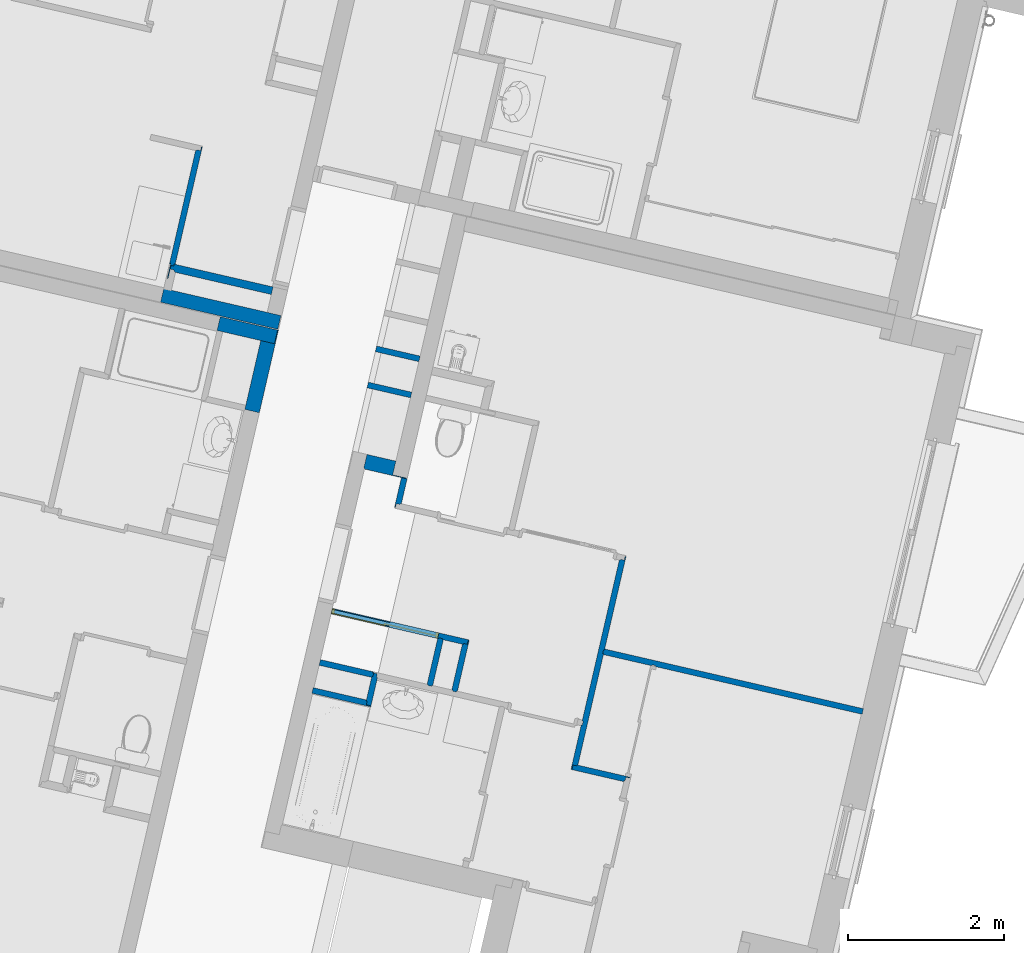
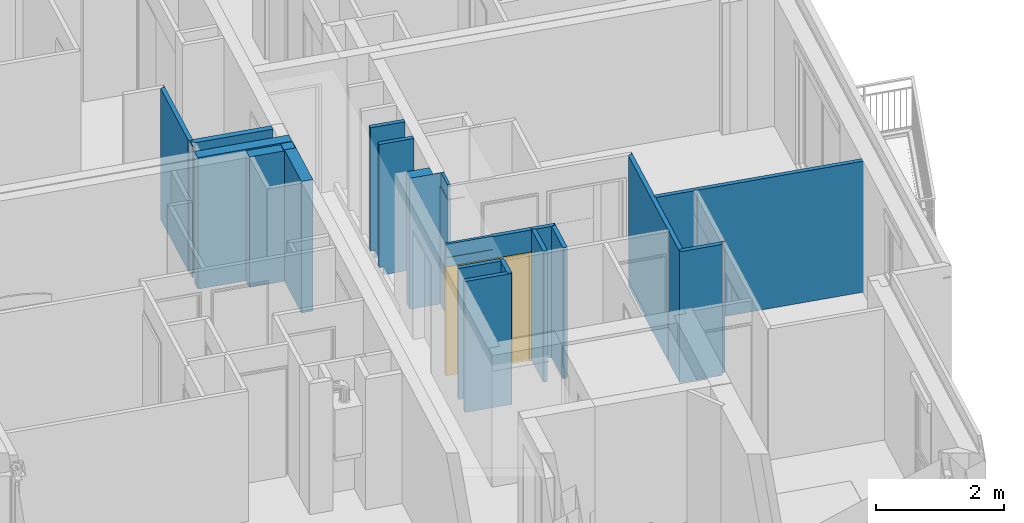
# One storey, part 28 of 62: 19 walls, 1 door, 1 opening.
"""IFC2X3 building model written with IfcOpenShell, lengths in metres."""

from ifc_helpers import new_model, entity, si_unit, converted_unit, derived_unit, money_unit, direction, frame, origin_with_axes, place, context, subcontext, project, spatial, faceted_brep, material, material_list, type_object, element, fill, save


model = new_model("IFC2X3")

# Units and contexts
model_context = context("Model", 3, precision=1e-05, world=origin_with_axes(), true_north=direction((0.0, 1.0)))
body_context = subcontext(model_context, "Body", "Model", "MODEL_VIEW")
ifc_project = project(units=[si_unit("LENGTHUNIT", "METRE"), si_unit("AREAUNIT", "SQUARE_METRE"), si_unit("VOLUMEUNIT", "CUBIC_METRE"), converted_unit("PLANEANGLEUNIT", "DEGREE", entity("IfcPlaneAngleMeasure", 0.0174532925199), si_unit("PLANEANGLEUNIT", "RADIAN"), dimensions=[0, 0, 0, 0, 0, 0, 0]), si_unit("SOLIDANGLEUNIT", "STERADIAN"), money_unit("EUR"), converted_unit("TIMEUNIT", "Year", entity("IfcTimeMeasure", 31556926.0), si_unit("TIMEUNIT", "SECOND"), dimensions=[0, 0, 1, 0, 0, 0, 0]), si_unit("MASSUNIT", "GRAM", prefix="KILO"), si_unit("THERMODYNAMICTEMPERATUREUNIT", "DEGREE_CELSIUS"), si_unit("LUMINOUSINTENSITYUNIT", "LUMEN"), si_unit("ENERGYUNIT", "JOULE", prefix="MEGA"), derived_unit("THERMALCONDUCTANCEUNIT", [(si_unit("POWERUNIT", "WATT"), 1), (si_unit("LENGTHUNIT", "METRE"), -1), (si_unit("THERMODYNAMICTEMPERATUREUNIT", "KELVIN"), -1)]), derived_unit("SPECIFICHEATCAPACITYUNIT", [(si_unit("ENERGYUNIT", "JOULE"), 1), (si_unit("MASSUNIT", "GRAM", prefix="KILO"), -1), (si_unit("THERMODYNAMICTEMPERATUREUNIT", "KELVIN"), -1)]), derived_unit("MASSDENSITYUNIT", [(si_unit("MASSUNIT", "GRAM", prefix="KILO"), 1), (si_unit("VOLUMEUNIT", "CUBIC_METRE"), -1)])], contexts=[model_context])

# Site, building, storey
site_placement = place(None, origin_with_axes())
site = spatial("IfcSite", under=ifc_project, at=site_placement, Name="Site", CompositionType="ELEMENT")
building_placement = place(site_placement, origin_with_axes())
building = spatial("IfcBuilding", under=site, at=building_placement, Name="Bâtiment", CompositionType="ELEMENT")
storey_placement = place(building_placement, frame((0.0, 0.0, 8.16), z_axis=(0.0, 0.0, 1.0), x_axis=(1.0, 0.0, 0.0)))
storey = spatial("IfcBuildingStorey", under=building, at=storey_placement, Name="R+3", CompositionType="ELEMENT", Elevation=8.16)

# Walls
ifc_material_1 = material(Name="Cloison - Carreaux de plâtre")
wall_type_1 = type_object("IfcWallType", Name="Cloison - Carreaux de plâtre 74", PredefinedType="USERDEFINED")
wall_1_placement = place(storey_placement, frame((-8.89404805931, 2.22587823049, 0.0), z_axis=(0.0, 0.0, 1.0), x_axis=(0.974387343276, -0.224876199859, 0.0)))
element("IfcWall", 1, at=wall_1_placement, inside=storey, type_object=wall_type_1, material=ifc_material_1, Name="Carreaux de plâtre 8cm", ObjectType="PARTITIONING", context=body_context, shape_type="Brep", body=[
    faceted_brep([(0.570000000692, 0.0, 0.0), (0.0739999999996, 0.0, 0.0), (0.0739999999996, 0.0, 0.15), (0.0, 0.0, 0.15), (0.0, 0.0, 2.5), (0.570000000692, 0.0, 2.5), (0.570000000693, -0.074, 0.0), (0.0739999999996, -0.074, 0.0), (0.0739999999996, -0.074, 0.15), (0.0, -0.074, 0.15), (0.0, -0.074, 2.5), (0.570000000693, -0.074, 2.5)], [[[0, 1, 2, 3, 4, 5]], [[0, 6, 7, 1]], [[7, 8, 2, 1]], [[8, 9, 3, 2]], [[10, 4, 3, 9]], [[10, 11, 5, 4]], [[11, 6, 0, 5]], [[10, 9, 8, 7, 6, 11]]]),
])
wall_2_placement = place(storey_placement, frame((-9.00063937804, 1.76401862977, 0.0), z_axis=(0.0, 0.0, 1.0), x_axis=(0.974387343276, -0.224876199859, 0.0)))
element("IfcWall", 2, at=wall_2_placement, inside=storey, type_object=wall_type_1, material=ifc_material_1, Name="Carreaux de plâtre 8cm", ObjectType="PARTITIONING", context=body_context, shape_type="Brep", body=[
    faceted_brep([(0.570000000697, 0.0, 0.0), (0.0740000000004, 0.0, 0.0), (0.0740000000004, 0.0, 0.15), (0.0, 0.0, 0.15), (0.0, 0.0, 2.5), (0.570000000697, 0.0, 2.5), (0.570000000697, -0.074, 0.0), (0.0740000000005, -0.074, 0.0), (0.0740000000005, -0.074, 0.15), (0.0, -0.074, 0.15), (0.0, -0.074, 2.5), (0.570000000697, -0.074, 2.5)], [[[0, 1, 2, 3, 4, 5]], [[0, 6, 7, 1]], [[7, 8, 2, 1]], [[8, 9, 3, 2]], [[10, 4, 3, 9]], [[10, 11, 5, 4]], [[11, 6, 0, 5]], [[10, 9, 8, 7, 6, 11]]]),
])
ifc_material_2 = material(Name="Finition int - Plaque de plâtre")
ifc_material_3 = material(Name="Isolation - Laine de roche")
ifc_material_list_1 = material_list([ifc_material_2, ifc_material_3, ifc_material_2])
wall_type_2 = type_object("IfcWallType", Name="3 - Cloison 72mm Placostil 74", PredefinedType="USERDEFINED")
wall_3_placement = place(storey_placement, frame((-6.39424177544, -3.11506443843, 0.0), z_axis=(0.0, 0.0, 1.0), x_axis=(0.224876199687, 0.974387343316, 0.0)))
element("IfcWall", 3, at=wall_3_placement, inside=storey, type_object=wall_type_2, material=ifc_material_list_1, Name="Cloison Placostil 72/48", ObjectType="PARTITIONING", context=body_context, shape_type="Brep", body=[
    faceted_brep([(0.51300000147, -0.013, 2.5), (0.513000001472, 0.0, 2.5), (-0.061, 0.0, 2.5), (-0.0609999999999, -0.013, 2.5), (0.51300000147, -0.013, 0.0), (0.513000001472, 0.0, 0.0), (-0.061, 0.0, 0.0), (-0.0609999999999, -0.013, 0.0)], [[[0, 1, 2, 3]], [[1, 0, 4, 5]], [[1, 5, 6, 2]], [[7, 3, 2, 6]], [[4, 0, 3, 7]], [[5, 4, 7, 6]]]),
    faceted_brep([(2.6740000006, -0.013, 2.5), (2.6740000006, 0.0, 2.5), (0.561000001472, 0.0, 2.5), (0.56100000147, -0.013, 2.5), (2.6740000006, -0.013, 0.0), (2.6740000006, 0.0, 0.0), (0.561000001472, 0.0, 0.0), (0.56100000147, -0.013, 0.0)], [[[0, 1, 2, 3]], [[1, 0, 4, 5]], [[1, 5, 6, 2]], [[7, 3, 2, 6]], [[4, 0, 3, 7]], [[5, 4, 7, 6]]]),
    faceted_brep([(2.68700000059, -0.061, 2.5), (2.6870000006, -0.013, 2.5), (-0.0129999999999, -0.013, 2.5), (-0.0129999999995, -0.061, 2.5), (2.68700000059, -0.061, 0.0), (2.6870000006, -0.013, 0.0), (-0.0129999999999, -0.013, 0.0), (-0.0129999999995, -0.061, 0.0)], [[[0, 1, 2, 3]], [[1, 0, 4, 5]], [[1, 5, 6, 2]], [[7, 3, 2, 6]], [[4, 0, 3, 7]], [[5, 4, 7, 6]]]),
    faceted_brep([(2.73500000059, -0.074, 2.5), (2.73500000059, -0.061, 2.5), (1.51100000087, -0.061, 2.5), (1.51100000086, -0.074, 2.5), (2.73500000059, -0.074, 0.0), (2.73500000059, -0.061, 0.0), (1.51100000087, -0.061, 0.0), (1.51100000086, -0.074, 0.0)], [[[0, 1, 2, 3]], [[1, 0, 4, 5]], [[1, 5, 6, 2]], [[7, 3, 2, 6]], [[4, 0, 3, 7]], [[5, 4, 7, 6]]]),
    faceted_brep([(1.46300000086, -0.074, 2.5), (1.46300000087, -0.061, 2.5), (0.0, -0.061, 2.5), (0.0, -0.074, 2.5), (1.46300000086, -0.074, 0.0), (1.46300000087, -0.061, 0.0), (0.0, -0.061, 0.0), (0.0, -0.074, 0.0)], [[[0, 1, 2, 3]], [[1, 0, 4, 5]], [[1, 5, 6, 2]], [[7, 3, 2, 6]], [[4, 0, 3, 7]], [[5, 4, 7, 6]]]),
])
wall_4_placement = place(storey_placement, frame((-7.71045196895, -1.53049506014, 0.0), z_axis=(0.0, 0.0, 1.0), x_axis=(-0.974387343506, 0.224876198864, 0.0)))
element("IfcWall", 4, at=wall_4_placement, inside=storey, type_object=wall_type_2, material=ifc_material_list_1, Name="Cloison Placostil 72/48", ObjectType="PARTITIONING", context=body_context, shape_type="Brep", body=[
    faceted_brep([(0.385000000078, 0.074, 0.0), (0.397999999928, 0.074, 0.0), (0.397999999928, 0.061, 0.0), (0.385000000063, 0.061, 0.0), (0.385000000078, 0.074, 2.5), (0.397999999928, 0.074, 2.5), (0.397999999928, 0.061, 2.5), (0.385000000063, 0.061, 2.5)], [[[0, 1, 2, 3]], [[4, 5, 1, 0]], [[2, 1, 5, 6]], [[3, 2, 6, 7]], [[4, 0, 3, 7]], [[7, 6, 5, 4]]]),
    faceted_brep([(0.337000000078, 0.074, 0.0), (0.337000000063, 0.061, 0.0), (0.061000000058, 0.061, 0.0), (0.0610000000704, 0.074, 0.0), (0.337000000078, 0.074, 2.5), (0.337000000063, 0.061, 2.5), (0.061000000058, 0.061, 2.5), (0.0610000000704, 0.074, 2.5)], [[[0, 1, 2, 3]], [[1, 0, 4, 5]], [[1, 5, 6, 2]], [[7, 3, 2, 6]], [[4, 0, 3, 7]], [[5, 4, 7, 6]]]),
    faceted_brep([(0.013000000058, 0.061, 0.0), (0.397999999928, 0.061, 0.0), (0.397999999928, 0.013, 0.0), (0.0130000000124, 0.013, 0.0), (0.013000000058, 0.061, 2.5), (0.397999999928, 0.061, 2.5), (0.397999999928, 0.013, 2.5), (0.0130000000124, 0.013, 2.5)], [[[0, 1, 2, 3]], [[4, 5, 1, 0]], [[2, 1, 5, 6]], [[3, 2, 6, 7]], [[4, 0, 3, 7]], [[7, 6, 5, 4]]]),
    faceted_brep([(0.0, 0.013, 0.0), (0.397999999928, 0.013, 0.0), (0.397999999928, 0.0, 0.0), (0.0, 0.0, 0.0), (0.0, 0.013, 2.5), (0.397999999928, 0.013, 2.5), (0.397999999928, 0.0, 2.5), (0.0, 0.0, 2.5)], [[[0, 1, 2, 3]], [[4, 5, 1, 0]], [[2, 1, 5, 6]], [[3, 2, 6, 7]], [[4, 0, 3, 7]], [[7, 6, 5, 4]]]),
])
wall_5_placement = place(storey_placement, frame((-8.97025376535, -2.38667692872, 0.0), z_axis=(0.0, 0.0, 1.0), x_axis=(0.224876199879, 0.974387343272, 0.0)))
element("IfcWall", 5, at=wall_5_placement, inside=storey, type_object=wall_type_2, material=ifc_material_list_1, Name="Cloison Placostil 72/48", ObjectType="PARTITIONING", context=body_context, shape_type="Brep", body=[
    faceted_brep([(0.0610000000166, 0.061, 0.0), (0.38255221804, 0.061, 0.0), (0.38255221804, 0.061, 2.5), (0.0610000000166, 0.061, 2.5), (0.0610000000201, 0.074, 0.0), (0.382552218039, 0.074, 0.0), (0.382552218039, 0.074, 2.5), (0.0610000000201, 0.074, 2.5)], [[[0, 1, 2, 3]], [[4, 5, 1, 0]], [[5, 6, 2, 1]], [[3, 2, 6, 7]], [[3, 7, 4, 0]], [[7, 6, 5, 4]]]),
    faceted_brep([(0.443552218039, 0.074, 2.5), (0.430552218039, 0.074, 2.5), (0.43055221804, 0.061, 2.5), (0.44355221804, 0.061, 2.5), (0.443552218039, 0.074, 0.0), (0.430552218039, 0.074, 0.0), (0.43055221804, 0.061, 0.0), (0.44355221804, 0.061, 0.0)], [[[0, 1, 2, 3]], [[4, 5, 1, 0]], [[5, 6, 2, 1]], [[3, 2, 6, 7]], [[3, 7, 4, 0]], [[7, 6, 5, 4]]]),
    faceted_brep([(0.0130000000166, 0.061, 0.0), (0.43055221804, 0.061, 0.0), (0.430552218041, 0.013, 0.0), (0.0130000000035, 0.013, 0.0), (0.0130000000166, 0.061, 2.5), (0.43055221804, 0.061, 2.5), (0.430552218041, 0.013, 2.5), (0.0130000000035, 0.013, 2.5)], [[[0, 1, 2, 3]], [[4, 5, 1, 0]], [[6, 2, 1, 5]], [[3, 2, 6, 7]], [[7, 4, 0, 3]], [[7, 6, 5, 4]]]),
    faceted_brep([(0.382552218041, 0.013, 0.0), (0.382552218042, 0.0, 0.0), (0.0, 0.0, 0.0), (0.0, 0.013, 0.0), (0.382552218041, 0.013, 2.5), (0.382552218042, 0.0, 2.5), (0.0, 0.0, 2.5), (0.0, 0.013, 2.5)], [[[0, 1, 2, 3]], [[1, 0, 4, 5]], [[1, 5, 6, 2]], [[7, 3, 2, 6]], [[4, 0, 3, 7]], [[5, 4, 7, 6]]]),
])
wall_6_placement = place(storey_placement, frame((-11.5416169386, 3.28705279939, 0.0), z_axis=(0.0, 0.0, 1.0), x_axis=(0.224876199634, 0.974387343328, 0.0)))
element("IfcWall", 6, at=wall_6_placement, inside=storey, type_object=wall_type_2, material=ifc_material_list_1, Name="Cloison Placostil 72/48", ObjectType="PARTITIONING", context=body_context, shape_type="Brep", body=[
    faceted_brep([(1.47600000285, 0.0, 2.5), (0.0, 0.0, 2.5), (0.0, -0.013, 2.5), (1.47600000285, -0.013, 2.5), (1.47600000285, 0.0, 0.0), (0.0, 0.0, 0.0), (0.0, -0.013, 0.0), (1.47600000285, -0.013, 0.0)], [[[0, 1, 2, 3]], [[4, 5, 1, 0]], [[5, 6, 2, 1]], [[3, 2, 6, 7]], [[7, 4, 0, 3]], [[7, 6, 5, 4]]]),
    faceted_brep([(-0.2, -0.013, 2.5), (-0.2, -0.026, 2.5), (-0.0259999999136, -0.026, 2.5), (-0.0259999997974, -0.061, 2.5), (1.48900000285, -0.061, 2.5), (1.48900000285, -0.013, 2.5), (-0.2, -0.013, 0.0), (-0.2, -0.026, 0.0), (-0.0259999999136, -0.026, 0.0), (-0.0259999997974, -0.061, 0.0), (1.48900000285, -0.061, 0.0), (1.48900000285, -0.013, 0.0)], [[[0, 1, 2, 3, 4, 5]], [[6, 7, 1, 0]], [[8, 2, 1, 7]], [[8, 9, 3, 2]], [[4, 3, 9, 10]], [[10, 11, 5, 4]], [[11, 6, 0, 5]], [[9, 8, 7, 6, 11, 10]]]),
    faceted_brep([(1.53700000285, -0.061, 2.5), (2.02598826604e-10, -0.061, 2.5), (2.45775844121e-10, -0.074, 2.5), (1.53700000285, -0.074, 2.5), (1.53700000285, -0.061, 0.0), (2.02598826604e-10, -0.061, 0.0), (2.45775844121e-10, -0.074, 0.0), (1.53700000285, -0.074, 0.0)], [[[0, 1, 2, 3]], [[4, 5, 1, 0]], [[5, 6, 2, 1]], [[3, 2, 6, 7]], [[7, 4, 0, 3]], [[7, 6, 5, 4]]]),
])
wall_7_placement = place(storey_placement, frame((-9.90858877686, -2.17012114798, 0.0), z_axis=(0.0, 0.0, 1.0), x_axis=(0.974387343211, -0.224876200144, 0.0)))
element("IfcWall", 7, at=wall_7_placement, inside=storey, type_object=wall_type_2, material=ifc_material_list_1, Name="Cloison Placostil 72/48", ObjectType="PARTITIONING", context=body_context, shape_type="Brep", body=[
    faceted_brep([(0.88899999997, 0.074, 0.0), (0.888999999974, 0.061, 0.0), (0.190000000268, 0.061, 0.0), (0.190000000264, 0.074, 0.0), (0.88899999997, 0.074, 2.5), (0.888999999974, 0.061, 2.5), (0.190000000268, 0.061, 2.5), (0.190000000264, 0.074, 2.5)], [[[0, 1, 2, 3]], [[1, 0, 4, 5]], [[1, 5, 6, 2]], [[7, 3, 2, 6]], [[4, 0, 3, 7]], [[5, 4, 7, 6]]]),
    faceted_brep([(0.901999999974, 0.061, 0.0), (0.901999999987, 0.013, 0.0), (0.190000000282, 0.013, 0.0), (0.190000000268, 0.061, 0.0), (0.901999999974, 0.061, 2.5), (0.901999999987, 0.013, 2.5), (0.190000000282, 0.013, 2.5), (0.190000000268, 0.061, 2.5)], [[[0, 1, 2, 3]], [[1, 0, 4, 5]], [[1, 5, 6, 2]], [[7, 3, 2, 6]], [[4, 0, 3, 7]], [[5, 4, 7, 6]]]),
    faceted_brep([(0.949999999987, 0.013, 0.0), (0.94999999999, 0.0, 0.0), (0.190000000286, 0.0, 0.0), (0.190000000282, 0.013, 0.0), (0.949999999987, 0.013, 2.5), (0.94999999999, 0.0, 2.5), (0.190000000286, 0.0, 2.5), (0.190000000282, 0.013, 2.5)], [[[0, 1, 2, 3]], [[1, 0, 4, 5]], [[1, 5, 6, 2]], [[7, 3, 2, 6]], [[4, 0, 3, 7]], [[5, 4, 7, 6]]]),
])
wall_8_placement = place(storey_placement, frame((-6.0515304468, -1.63009812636, 0.0), z_axis=(0.0, 0.0, 1.0), x_axis=(0.974387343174, -0.224876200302, 0.0)))
element("IfcWall", 8, at=wall_8_placement, inside=storey, type_object=wall_type_2, material=ifc_material_list_1, Name="Cloison Placostil 72/48", ObjectType="PARTITIONING", context=body_context, shape_type="Brep", body=[
    faceted_brep([(0.073999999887, -0.013, 2.5), (3.46816950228, -0.013, 2.5), (3.46816950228, 0.0, 2.5), (0.0739999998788, 0.0, 2.5), (0.073999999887, -0.013, 0.0), (3.46816950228, -0.013, 0.0), (3.46816950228, 0.0, 0.0), (0.0739999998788, 0.0, 0.0)], [[[0, 1, 2, 3]], [[4, 5, 1, 0]], [[2, 1, 5, 6]], [[3, 2, 6, 7]], [[4, 0, 3, 7]], [[7, 6, 5, 4]]]),
    faceted_brep([(0.0609999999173, -0.061, 2.5), (3.46816950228, -0.061, 2.5), (3.46816950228, -0.013, 2.5), (0.060999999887, -0.013, 2.5), (0.0609999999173, -0.061, 0.0), (3.46816950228, -0.061, 0.0), (3.46816950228, -0.013, 0.0), (0.060999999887, -0.013, 0.0)], [[[0, 1, 2, 3]], [[4, 5, 1, 0]], [[2, 1, 5, 6]], [[3, 2, 6, 7]], [[4, 0, 3, 7]], [[7, 6, 5, 4]]]),
    faceted_brep([(0.706999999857, -0.074, 2.5), (0.706999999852, -0.061, 2.5), (0.0739999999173, -0.061, 2.5), (0.0739999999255, -0.074, 2.5), (0.706999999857, -0.074, 0.0), (0.706999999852, -0.061, 0.0), (0.0739999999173, -0.061, 0.0), (0.0739999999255, -0.074, 0.0)], [[[0, 1, 2, 3]], [[1, 0, 4, 5]], [[1, 5, 6, 2]], [[7, 3, 2, 6]], [[4, 0, 3, 7]], [[5, 4, 7, 6]]]),
    faceted_brep([(0.754999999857, -0.074, 2.5), (3.46816950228, -0.074, 2.5), (3.46816950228, -0.061, 2.5), (0.754999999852, -0.061, 2.5), (0.754999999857, -0.074, 0.0), (3.46816950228, -0.074, 0.0), (3.46816950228, -0.061, 0.0), (0.754999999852, -0.061, 0.0)], [[[0, 1, 2, 3]], [[4, 5, 1, 0]], [[2, 1, 5, 6]], [[3, 2, 6, 7]], [[4, 0, 3, 7]], [[7, 6, 5, 4]]]),
])
wall_9_placement = place(storey_placement, frame((-5.7180169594, -3.27112852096, 0.0), z_axis=(0.0, 0.0, 1.0), x_axis=(-0.974387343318, 0.224876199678, 0.0)))
element("IfcWall", 9, at=wall_9_placement, inside=storey, type_object=wall_type_2, material=ifc_material_list_1, Name="Cloison Placostil 72/48", ObjectType="PARTITIONING", context=body_context, shape_type="Brep", body=[
    faceted_brep([(0.693999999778, 0.074, 0.0), (0.693999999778, 0.061, 0.0), (0.0, 0.061, 0.0), (0.0, 0.074, 0.0), (0.693999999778, 0.074, 2.5), (0.693999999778, 0.061, 2.5), (0.0, 0.061, 2.5), (0.0, 0.074, 2.5)], [[[0, 1, 2, 3]], [[1, 0, 4, 5]], [[1, 5, 6, 2]], [[7, 3, 2, 6]], [[4, 0, 3, 7]], [[5, 4, 7, 6]]]),
    faceted_brep([(0.680999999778, 0.061, 0.0), (0.680999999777, 0.013, 0.0), (-0.012999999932, 0.013, 0.0), (-0.0129999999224, 0.061, 0.0), (0.680999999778, 0.061, 2.5), (0.680999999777, 0.013, 2.5), (-0.012999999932, 0.013, 2.5), (-0.0129999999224, 0.061, 2.5)], [[[0, 1, 2, 3]], [[1, 0, 4, 5]], [[1, 5, 6, 2]], [[7, 3, 2, 6]], [[4, 0, 3, 7]], [[5, 4, 7, 6]]]),
    faceted_brep([(0.632999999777, 0.013, 0.0), (0.632999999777, 0.0, 0.0), (-0.0609999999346, 0.0, 0.0), (-0.060999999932, 0.013, 0.0), (0.632999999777, 0.013, 2.5), (0.632999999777, 0.0, 2.5), (-0.0609999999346, 0.0, 2.5), (-0.060999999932, 0.013, 2.5)], [[[0, 1, 2, 3]], [[1, 0, 4, 5]], [[1, 5, 6, 2]], [[7, 3, 2, 6]], [[4, 0, 3, 7]], [[5, 4, 7, 6]]]),
])
wall_10_placement = place(storey_placement, frame((-7.86201852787, -2.18723213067, 0.0), z_axis=(0.0, 0.0, 1.0), x_axis=(0.224876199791, 0.974387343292, 0.0)))
element("IfcWall", 10, at=wall_10_placement, inside=storey, type_object=wall_type_2, material=ifc_material_list_1, Name="Cloison Placostil 72/48", ObjectType="PARTITIONING", context=body_context, shape_type="Brep", body=[
    faceted_brep([(0.600000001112, 0.074, 0.0), (0.600000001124, 0.061, 0.0), (2.41132092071e-09, 0.061, 0.0), (2.41201103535e-09, 0.074, 0.0), (0.600000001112, 0.074, 2.5), (0.600000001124, 0.061, 2.5), (2.41132092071e-09, 0.061, 2.5), (2.41201147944e-09, 0.074, 2.5)], [[[0, 1, 2, 3]], [[1, 0, 4, 5]], [[1, 5, 6, 2]], [[7, 3, 2, 6]], [[4, 0, 3, 7]], [[5, 4, 7, 6]]]),
    faceted_brep([(0.613000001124, 0.061, 0.0), (0.61300000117, 0.013, 0.0), (-0.0129999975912, 0.013, 0.0), (-0.0129999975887, 0.061, 0.0), (0.613000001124, 0.061, 2.5), (0.61300000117, 0.013, 2.5), (-0.0129999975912, 0.013, 2.5), (-0.0129999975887, 0.061, 2.5)], [[[0, 1, 2, 3]], [[1, 0, 4, 5]], [[1, 5, 6, 2]], [[7, 3, 2, 6]], [[4, 0, 3, 7]], [[5, 4, 7, 6]]]),
    faceted_brep([(0.66100000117, 0.013, 0.0), (0.661000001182, 0.0, 0.0), (2.40808173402e-09, 0.0, 0.0), (2.40877229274e-09, 0.013, 0.0), (0.66100000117, 0.013, 2.5), (0.661000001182, 0.0, 2.5), (2.40808173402e-09, 0.0, 2.5), (2.40877229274e-09, 0.013, 2.5)], [[[0, 1, 2, 3]], [[1, 0, 4, 5]], [[1, 5, 6, 2]], [[7, 3, 2, 6]], [[4, 0, 3, 7]], [[5, 4, 7, 6]]]),
])

# Wall, opening, door
wall_11_placement = place(storey_placement, frame((-8.09825813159, -1.44099433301, 0.0), z_axis=(0.0, 0.0, 1.0), x_axis=(-0.974387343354, 0.224876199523, 0.0)))
wall_11 = element("IfcWall", 11, at=wall_11_placement, inside=storey, type_object=wall_type_2, material=ifc_material_list_1, Name="Cloison Placostil 72/48", ObjectType="PARTITIONING", context=body_context, shape_type="Brep", body=[
    faceted_brep([(3.69367647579e-10, 0.074, 2.08), (3.69366759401e-10, 0.061, 2.08), (0.0, 0.061, 2.5), (0.0, 0.074, 2.5), (1.40000000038, 0.061, 2.08), (1.40000000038, 0.074, 2.08), (1.40000000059, 0.061, 2.25), (0.640000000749, 0.061, 2.25), (0.640000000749, 0.061, 2.5), (0.640000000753, 0.074, 2.5), (0.640000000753, 0.074, 2.25), (1.4000000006, 0.074, 2.25)], [[[0, 1, 2, 3]], [[4, 1, 0, 5]], [[1, 4, 6, 7, 8, 2]], [[9, 3, 2, 8]], [[5, 0, 3, 9, 10, 11]], [[4, 5, 11, 6]], [[6, 11, 10, 7]], [[8, 7, 10, 9]]]),
    faceted_brep([(3.69366759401e-10, 0.061, 2.08), (3.69365871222e-10, 0.013, 2.08), (0.0, 0.013, 2.5), (0.0, 0.061, 2.5), (1.40000000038, 0.013, 2.08), (1.40000000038, 0.061, 2.08), (1.40000000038, 0.013, 2.5), (1.40000000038, 0.061, 2.5)], [[[0, 1, 2, 3]], [[4, 1, 0, 5]], [[1, 4, 6, 2]], [[6, 7, 3, 2]], [[5, 0, 3, 7]], [[4, 5, 7, 6]]]),
    faceted_brep([(3.69365871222e-10, 0.013, 2.08), (3.69366759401e-10, 0.0, 2.08), (0.0, 0.0, 2.5), (0.0, 0.013, 2.5), (1.40000000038, 0.0, 2.08), (1.40000000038, 0.013, 2.08), (1.40000000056, 0.0, 2.25), (0.640000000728, 0.0, 2.25), (0.640000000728, 0.0, 2.5), (0.640000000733, 0.013, 2.5), (0.640000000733, 0.013, 2.25), (1.40000000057, 0.013, 2.25)], [[[0, 1, 2, 3]], [[4, 1, 0, 5]], [[1, 4, 6, 7, 8, 2]], [[9, 3, 2, 8]], [[5, 0, 3, 9, 10, 11]], [[4, 5, 11, 6]], [[6, 11, 10, 7]], [[8, 7, 10, 9]]]),
])
opening_placement = place(wall_11_placement, frame((0.700000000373, 0.0, 0.0), z_axis=(0.0, 0.0, 1.0), x_axis=(1.0, 0.0, 0.0)))
opening = element("IfcOpeningElement", 12, at=opening_placement, cuts=wall_11, Name="Por-002", context=body_context, shape_type="Brep", body=[
    faceted_brep([(0.700000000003, -0.074, 0.0), (-0.700000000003, -0.074, 0.0), (-0.700000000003, 0.074, 0.0), (0.700000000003, 0.074, 0.0), (0.700000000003, -0.074, 2.08), (-0.700000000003, -0.074, 2.08), (-0.700000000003, 0.074, 2.08), (0.700000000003, 0.074, 2.08)], [[[0, 1, 2, 3]], [[0, 4, 5, 1]], [[1, 5, 6, 2]], [[3, 2, 6, 7]], [[4, 0, 3, 7]], [[5, 4, 7, 6]]]),
])
door_style = type_object("IfcDoorStyle", Name="Porte int générique 2019", ConstructionType="NOTDEFINED", OperationType="USERDEFINED", ParameterTakesPrecedence=False, Sizeable=False)
door_placement = place(opening_placement, frame((-0.660000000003, 0.0, 0.0), z_axis=(0.0, 0.0, 1.0), x_axis=(1.0, 0.0, 0.0)))
door = element("IfcDoor", 13, at=door_placement, inside=storey, type_object=door_style, Name="Por-002", ObjectType="DOOR", OverallHeight=2.04, OverallWidth=1.32, context=body_context, shape_type="Brep", body=[
    faceted_brep([(1.36000000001, 0.074, 0.0), (1.32000000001, 0.074, 0.0), (1.32000000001, 0.074, 2.04), (0.0, 0.074, 2.04), (0.0, 0.074, 0.0), (-0.04, 0.074, 0.0), (-0.04, 0.074, 2.08), (1.36000000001, 0.074, 2.08), (1.36000000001, 0.0, 0.0), (1.32000000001, 0.0, 0.0), (1.32000000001, 0.0, 2.04), (0.0, 0.0, 2.04), (0.0, 0.0, 0.0), (-0.04, 0.0, 0.0), (-0.04, 0.0, 2.08), (1.36000000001, 0.0, 2.08)], [[[0, 1, 2, 3, 4, 5, 6, 7]], [[0, 8, 9, 1]], [[1, 9, 10, 2]], [[2, 10, 11, 3]], [[3, 11, 12, 4]], [[5, 4, 12, 13]], [[14, 6, 5, 13]], [[15, 7, 6, 14]], [[8, 0, 7, 15]], [[9, 8, 15, 14, 13, 12, 11, 10]]]),
    faceted_brep([(1.32000000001, 0.074, 0.0), (1.32000000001, 0.054, 0.0), (0.645000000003, 0.054, 0.0), (0.645000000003, 0.074, 0.0), (1.32000000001, 0.074, 2.04), (1.32000000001, 0.054, 2.04), (0.645000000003, 0.054, 2.04), (0.645000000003, 0.074, 2.04)], [[[0, 1, 2, 3]], [[4, 5, 1, 0]], [[1, 5, 6, 2]], [[3, 2, 6, 7]], [[0, 3, 7, 4]], [[7, 6, 5, 4]]]),
    faceted_brep([(0.675000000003, 0.054, 0.0), (0.675000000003, 0.034, 0.0), (0.0, 0.034, 0.0), (0.0, 0.054, 0.0), (0.675000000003, 0.054, 2.04), (0.675000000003, 0.034, 2.04), (0.0, 0.034, 2.04), (0.0, 0.054, 2.04)], [[[0, 1, 2, 3]], [[4, 5, 1, 0]], [[1, 5, 6, 2]], [[3, 2, 6, 7]], [[0, 3, 7, 4]], [[7, 6, 5, 4]]]),
])
fill(opening, door)

# Walls
wall_12_placement = place(storey_placement, frame((-8.17772002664, -2.11437223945, 0.0), z_axis=(0.0, 0.0, 1.0), x_axis=(0.224876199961, 0.974387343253, 0.0)))
element("IfcWall", 14, at=wall_12_placement, inside=storey, type_object=wall_type_2, material=ifc_material_list_1, Name="Cloison Placostil 72/48", ObjectType="PARTITIONING", context=body_context, shape_type="Brep", body=[
    faceted_brep([(0.599999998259, 0.074, 0.0), (0.599999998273, 0.061, 0.0), (-1.14151355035e-10, 0.061, 0.0), (-1.15734533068e-10, 0.074, 0.0), (0.599999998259, 0.074, 2.5), (0.599999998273, 0.061, 2.5), (-1.14151355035e-10, 0.061, 2.5), (-1.15734533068e-10, 0.074, 2.5)], [[[0, 1, 2, 3]], [[1, 0, 4, 5]], [[1, 5, 6, 2]], [[7, 3, 2, 6]], [[4, 0, 3, 7]], [[5, 4, 7, 6]]]),
    faceted_brep([(0.612999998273, 0.061, 0.0), (0.612999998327, 0.013, 0.0), (-0.0130000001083, 0.013, 0.0), (-0.0130000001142, 0.061, 0.0), (0.612999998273, 0.061, 2.5), (0.612999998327, 0.013, 2.5), (-0.0130000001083, 0.013, 2.5), (-0.0130000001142, 0.061, 2.5)], [[[0, 1, 2, 3]], [[1, 0, 4, 5]], [[1, 5, 6, 2]], [[7, 3, 2, 6]], [[4, 0, 3, 7]], [[5, 4, 7, 6]]]),
    faceted_brep([(0.599999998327, 0.013, 0.0), (0.599999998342, 0.0, 0.0), (-1.06725739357e-10, 0.0, 0.0), (-1.08308029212e-10, 0.013, 0.0), (0.599999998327, 0.013, 2.5), (0.599999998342, 0.0, 2.5), (-1.06725739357e-10, 0.0, 2.5), (-1.08308029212e-10, 0.013, 2.5)], [[[0, 1, 2, 3]], [[1, 0, 4, 5]], [[1, 5, 6, 2]], [[7, 3, 2, 6]], [[4, 0, 3, 7]], [[5, 4, 7, 6]]]),
])
wall_13_placement = place(storey_placement, frame((-8.87050942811, -1.95448526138, 0.0), z_axis=(0.0, 0.0, 1.0), x_axis=(-0.97438734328, 0.224876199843, 0.0)))
element("IfcWall", 15, at=wall_13_placement, inside=storey, type_object=wall_type_2, material=ifc_material_list_1, Name="Cloison Placostil 72/48", ObjectType="PARTITIONING", context=body_context, shape_type="Brep", body=[
    faceted_brep([(0.763000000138, 0.074, 2.5), (0.0740000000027, 0.074, 2.5), (0.0740000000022, 0.061, 2.5), (0.763000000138, 0.061, 2.5), (0.763000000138, 0.074, 0.0), (0.0740000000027, 0.074, 0.0), (0.0740000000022, 0.061, 0.0), (0.763000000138, 0.061, 0.0)], [[[0, 1, 2, 3]], [[4, 5, 1, 0]], [[5, 6, 2, 1]], [[3, 2, 6, 7]], [[0, 3, 7, 4]], [[7, 6, 5, 4]]]),
    faceted_brep([(0.763000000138, 0.061, 2.5), (0.0610000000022, 0.061, 2.5), (0.0610000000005, 0.013, 2.5), (0.763000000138, 0.013, 2.5), (0.763000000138, 0.061, 0.0), (0.0610000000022, 0.061, 0.0), (0.0610000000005, 0.013, 0.0), (0.763000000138, 0.013, 0.0)], [[[0, 1, 2, 3]], [[4, 5, 1, 0]], [[5, 6, 2, 1]], [[3, 2, 6, 7]], [[0, 3, 7, 4]], [[7, 6, 5, 4]]]),
    faceted_brep([(0.763000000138, 0.013, 2.5), (0.0740000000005, 0.013, 2.5), (0.074, 0.0, 2.5), (0.763000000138, 0.0, 2.5), (0.763000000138, 0.013, 0.0), (0.0740000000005, 0.013, 0.0), (0.074, 0.0, 0.0), (0.763000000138, 0.0, 0.0)], [[[0, 1, 2, 3]], [[4, 5, 1, 0]], [[5, 6, 2, 1]], [[3, 2, 6, 7]], [[0, 3, 7, 4]], [[7, 6, 5, 4]]]),
])
wall_14_placement = place(storey_placement, frame((-8.50611955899, 0.527132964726, 0.0), z_axis=(0.0, 0.0, 1.0), x_axis=(-0.22487619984, -0.974387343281, 0.0)))
element("IfcWall", 16, at=wall_14_placement, inside=storey, type_object=wall_type_2, material=ifc_material_list_1, Name="Cloison Placostil 72/48", ObjectType="PARTITIONING", context=body_context, shape_type="Brep", body=[
    faceted_brep([(0.0, -0.013, 2.25), (0.0, 0.0, 2.25), (0.0, 0.0, 0.0), (0.0, -0.013, 0.0), (0.326000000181, 0.0, 2.25), (0.32600000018, -0.013, 2.25), (0.326000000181, 0.0, 0.0), (0.32600000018, -0.013, 0.0)], [[[0, 1, 2, 3]], [[4, 1, 0, 5]], [[1, 4, 6, 2]], [[6, 7, 3, 2]], [[5, 0, 3, 7]], [[4, 5, 7, 6]]]),
    faceted_brep([(0.339000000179, -0.061, 2.5), (0.33900000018, -0.013, 2.5), (0.0, -0.013, 2.5), (0.0, -0.061, 2.5), (0.339000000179, -0.061, 0.0), (0.33900000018, -0.013, 0.0), (0.0, -0.013, 0.0), (0.0, -0.061, 0.0)], [[[0, 1, 2, 3]], [[1, 0, 4, 5]], [[1, 5, 6, 2]], [[7, 3, 2, 6]], [[4, 0, 3, 7]], [[5, 4, 7, 6]]]),
    faceted_brep([(0.0, -0.074, 2.25), (0.0, -0.061, 2.25), (0.0, -0.061, 0.0), (0.0, -0.074, 0.0), (0.387000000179, -0.061, 2.25), (0.387000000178, -0.074, 2.25), (0.387000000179, -0.061, 0.0), (0.387000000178, -0.074, 0.0)], [[[0, 1, 2, 3]], [[4, 1, 0, 5]], [[1, 4, 6, 2]], [[6, 7, 3, 2]], [[5, 0, 3, 7]], [[4, 5, 7, 6]]]),
])
ifc_material_4 = material(Name="Finition int - Enduit plâtre")
ifc_material_5 = material(Name="Béton")
ifc_material_list_2 = material_list([ifc_material_4, ifc_material_5])
wall_type_3 = type_object("IfcWallType", Name="2 - Murs Béton 18 + Enduit 1 Face 190", PredefinedType="USERDEFINED")
wall_15_placement = place(storey_placement, frame((-8.64852667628, 0.754993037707, 0.0), z_axis=(0.0, 0.0, 1.0), x_axis=(-0.974387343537, 0.224876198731, 0.0)))
element("IfcWall", 17, at=wall_15_placement, inside=storey, type_object=wall_type_3, material=ifc_material_list_2, Name="M_Ext-008", ObjectType="SOLIDWALL", context=body_context, shape_type="Brep", body=[
    faceted_brep([(-0.179999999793, 0.18, 0.0), (0.370000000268, 0.18, 0.0), (0.370000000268, 0.18, 2.5), (-0.179999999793, 0.18, 2.5), (-0.179999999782, 0.19, 0.0), (0.370000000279, 0.19, 0.0), (0.370000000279, 0.19, 2.5), (-0.179999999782, 0.19, 2.5)], [[[0, 1, 2, 3]], [[4, 5, 1, 0]], [[2, 1, 5, 6]], [[3, 2, 6, 7]], [[4, 0, 3, 7]], [[6, 5, 4, 7]]]),
    faceted_brep([(0.0, 0.0, 0.0), (0.380000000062, 0.0, 0.0), (0.380000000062, 0.0, 2.5), (0.0, 0.0, 2.5), (2.0690649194e-10, 0.18, 0.0), (0.380000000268, 0.18, 0.0), (0.380000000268, 0.18, 2.5), (2.0690649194e-10, 0.18, 2.5)], [[[0, 1, 2, 3]], [[4, 5, 1, 0]], [[2, 1, 5, 6]], [[3, 2, 6, 7]], [[4, 0, 3, 7]], [[6, 5, 4, 7]]]),
])
wall_16_placement = place(storey_placement, frame((-10.1608443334, 2.43061423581, 0.0), z_axis=(0.0, 0.0, 1.0), x_axis=(-0.22487619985, -0.974387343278, 0.0)))
element("IfcWall", 18, at=wall_16_placement, inside=storey, type_object=wall_type_3, material=ifc_material_list_2, Name="M_Ext-009", ObjectType="SOLIDWALL", context=body_context, shape_type="Brep", body=[
    faceted_brep([(-1.54484810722e-07, 0.0, 2.50999999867), (-1.54709155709e-07, 0.010000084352, 2.50999999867), (0.0, 0.01, 0.0), (0.0, 0.0, 0.0), (1.08299999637, 0.01, 2.50999999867), (1.08299999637, 0.0, 2.50999999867), (1.08299999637, 0.01, 0.0), (1.08299999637, 0.0, 0.0)], [[[0, 1, 2, 3]], [[4, 1, 0, 5]], [[1, 4, 6, 2]], [[2, 6, 7, 3]], [[5, 0, 3, 7]], [[4, 5, 7, 6]]]),
    faceted_brep([(0.179999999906, -0.18, 2.50999999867), (0.18, 0.0, 2.50999999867), (0.18, 0.0, 0.0), (0.179999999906, -0.18, 0.0), (1.08299999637, 0.0, 2.50999999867), (1.08299999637, -0.18, 2.50999999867), (1.08299999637, 0.0, 0.0), (1.08299999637, -0.18, 0.0)], [[[0, 1, 2, 3]], [[4, 1, 0, 5]], [[1, 4, 6, 2]], [[2, 6, 7, 3]], [[5, 0, 3, 7]], [[4, 5, 7, 6]]]),
])
wall_type_4 = type_object("IfcWallType", Name="Béton 180", PredefinedType="USERDEFINED")
wall_17_placement = place(storey_placement, frame((-10.1608443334, 2.43061423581, 0.0), z_axis=(0.0, 0.0, 1.0), x_axis=(-0.974387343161, 0.224876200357, 0.0)))
element("IfcWall", 19, at=wall_17_placement, inside=storey, type_object=wall_type_4, material=ifc_material_5, Name="M_Ext-009", ObjectType="SOLIDWALL", context=body_context, shape_type="Brep", body=[
    faceted_brep([(0.752999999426, 0.0, 0.0), (0.752999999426, -1.37200166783e-07, 2.49), (0.19, -1.50123480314e-07, 2.49), (0.19, -1.50123480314e-07, 2.51), (-2.01342942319e-10, 0.0, 2.51), (0.0, 0.0, 0.0), (0.752999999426, 0.18, 0.0), (0.752999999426, 0.18, 2.49), (0.189999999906, 0.18, 2.49), (0.189999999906, 0.18, 2.50999999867), (0.0, 0.18, 2.50999999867), (0.0, 0.0380000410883, 2.50999999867), (0.0, 0.18, 0.0)], [[[0, 1, 2, 3, 4, 5]], [[6, 7, 1, 0]], [[8, 2, 1, 7]], [[9, 3, 2, 8]], [[4, 3, 9, 10, 11]], [[4, 11, 10, 12, 5]], [[5, 12, 6, 0]], [[9, 8, 7, 6, 12, 10]]]),
])
wall_18_placement = place(storey_placement, frame((-10.1585955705, 2.44035811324, 0.0), z_axis=(0.0, 0.0, 1.0), x_axis=(-0.97438734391, 0.224876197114, 0.0)))
element("IfcWall", 20, at=wall_18_placement, inside=storey, type_object=wall_type_4, material=ifc_material_5, Name="M_Ext-009", ObjectType="SOLIDWALL", context=body_context, shape_type="Brep", body=[
    faceted_brep([(1.53799999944, -0.18, 0.0), (1.53799999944, -0.18, 2.51), (-1.43686662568e-09, -0.18, 2.51), (-5.05371744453e-10, -0.18, 0.0), (1.53799999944, 0.0, 0.0), (1.53799999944, 0.0, 2.51), (-2.38422614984e-10, 0.0, 2.51), (0.0, 0.0, 0.0)], [[[0, 1, 2, 3]], [[4, 5, 1, 0]], [[5, 6, 2, 1]], [[3, 2, 6, 7]], [[3, 7, 4, 0]], [[7, 6, 5, 4]]]),
])
ifc_material_list_3 = material_list([ifc_material_2, ifc_material_2, ifc_material_3, ifc_material_2, ifc_material_2])
wall_type_5 = type_object("IfcWallType", Name="3 - Cloison Gaine Technique 98mm 100", PredefinedType="USERDEFINED")
wall_19_placement = place(storey_placement, frame((-10.2183989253, 2.98167092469, 0.0), z_axis=(0.0, 0.0, 1.0), x_axis=(-0.974387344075, 0.224876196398, 0.0)))
element("IfcWall", 21, at=wall_19_placement, inside=storey, type_object=wall_type_5, material=ifc_material_list_3, Name="Cloison 98 isolée", ObjectType="PARTITIONING", context=body_context, shape_type="Brep", body=[
    faceted_brep([(0.0, 0.1, 0.0), (1.27100000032, 0.1, 0.0), (1.27100000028, 0.087, 0.0), (0.0, 0.087, 0.0), (0.0, 0.1, 2.5), (1.27100000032, 0.1, 2.5), (1.27100000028, 0.087, 2.5), (0.0, 0.087, 2.5)], [[[0, 1, 2, 3]], [[4, 5, 1, 0]], [[6, 2, 1, 5]], [[3, 2, 6, 7]], [[7, 4, 0, 3]], [[7, 6, 5, 4]]]),
    faceted_brep([(0.0, 0.087, 0.0), (1.28400000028, 0.087, 0.0), (1.28400000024, 0.074, 0.0), (0.0, 0.074, 0.0), (0.0, 0.087, 2.5), (1.28400000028, 0.087, 2.5), (1.28400000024, 0.074, 2.5), (0.0, 0.074, 2.5)], [[[0, 1, 2, 3]], [[4, 5, 1, 0]], [[6, 2, 1, 5]], [[3, 2, 6, 7]], [[7, 4, 0, 3]], [[7, 6, 5, 4]]]),
    faceted_brep([(0.0, 0.074, 0.0), (1.33200000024, 0.074, 0.0), (1.33200000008, 0.026, 0.0), (0.0, 0.026, 0.0), (0.0, 0.074, 2.5), (1.33200000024, 0.074, 2.5), (1.33200000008, 0.026, 2.5), (0.0, 0.026, 2.5)], [[[0, 1, 2, 3]], [[4, 5, 1, 0]], [[6, 2, 1, 5]], [[3, 2, 6, 7]], [[7, 4, 0, 3]], [[7, 6, 5, 4]]]),
    faceted_brep([(0.0, 0.013, 0.0), (1.29700000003, 0.013, 0.0), (1.29700000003, 0.013, 2.5), (0.0, 0.013, 2.5), (0.0, 0.026, 0.0), (1.29700000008, 0.026, 0.0), (1.29700000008, 0.026, 2.5), (0.0, 0.026, 2.5)], [[[0, 1, 2, 3]], [[4, 5, 1, 0]], [[5, 6, 2, 1]], [[3, 2, 6, 7]], [[3, 7, 4, 0]], [[7, 6, 5, 4]]]),
    faceted_brep([(1.35800000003, 0.013, 2.5), (1.34500000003, 0.013, 2.5), (1.34499999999, 0.0, 2.5), (1.35799999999, 0.0, 2.5), (1.35800000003, 0.013, 0.0), (1.34500000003, 0.013, 0.0), (1.34499999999, 0.0, 0.0), (1.35799999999, 0.0, 0.0)], [[[0, 1, 2, 3]], [[4, 5, 1, 0]], [[5, 6, 2, 1]], [[3, 2, 6, 7]], [[3, 7, 4, 0]], [[7, 6, 5, 4]]]),
    faceted_brep([(0.0, 0.0, 0.0), (1.29699999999, 0.0, 0.0), (1.29699999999, 0.0, 2.5), (0.0, 0.0, 2.5), (0.0, 0.013, 0.0), (1.29700000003, 0.013, 0.0), (1.29700000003, 0.013, 2.5), (0.0, 0.013, 2.5)], [[[0, 1, 2, 3]], [[4, 5, 1, 0]], [[5, 6, 2, 1]], [[3, 2, 6, 7]], [[3, 7, 4, 0]], [[7, 6, 5, 4]]]),
])

save(model, "model.ifc")
